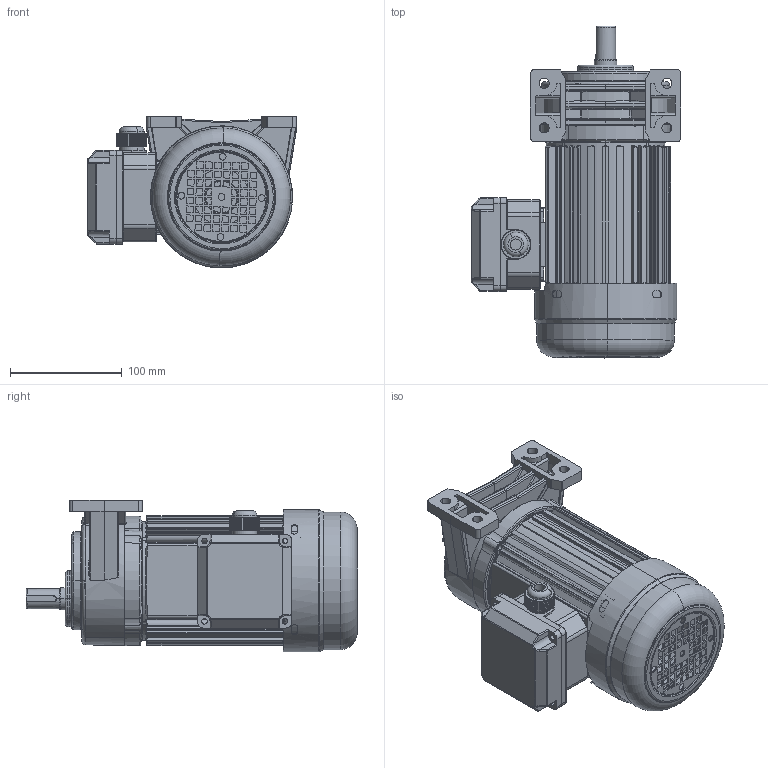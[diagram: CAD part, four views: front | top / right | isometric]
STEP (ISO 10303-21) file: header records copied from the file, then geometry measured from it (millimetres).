
FILE_DESCRIPTION (( 'STEP AP203' ), '1' );
FILE_NAME ('200W饜1#湍价陬拏宒.STEP', '2020-04-17T02:47:47', ( '' ), ( '' ), 'SwSTEP 2.0', 'SolidWorks 2019', '' );
FILE_SCHEMA (( 'CONFIG_CONTROL_DESIGN' ));
Length unit declared in the file: millimetre
Products named in the file (7): 200W饜1#湍价陬拏宒; 蜊輛綴諉盄碟釱3; 諉芛; 湍价陬諉盄碟裔; 100W棠憤迖殤; 200W饜1#拏宒; 100W价陬瑞欶
Assembly tree (6 placements, depth 2):
  200W饜1#湍价陬拏宒
    200W饜1#拏宒
    100W棠憤迖殤
    100W价陬瑞欶
    蜊輛綴諉盄碟釱3
    諉芛
    湍价陬諉盄碟裔
Bounding box: 188 x 297.5 x 136.22 mm (x, y, z)
Volume: 1485246.2 mm3; surface area: 479451.3 mm2
Topology: 9 solids, 9 shells, 2704 faces, 6973 edges, 4246 vertices
Faces by surface type: cylinder 842, plane 801, bspline 561, torus 234, sphere 139, cone 127
Entity records: 112313 total; most frequent: CARTESIAN_POINT 50661, ORIENTED_EDGE 13624, DIRECTION 11623, EDGE_CURVE 6812, AXIS2_PLACEMENT_3D 4435, VERTEX_POINT 4231, EDGE_LOOP 2971, LINE 2753
